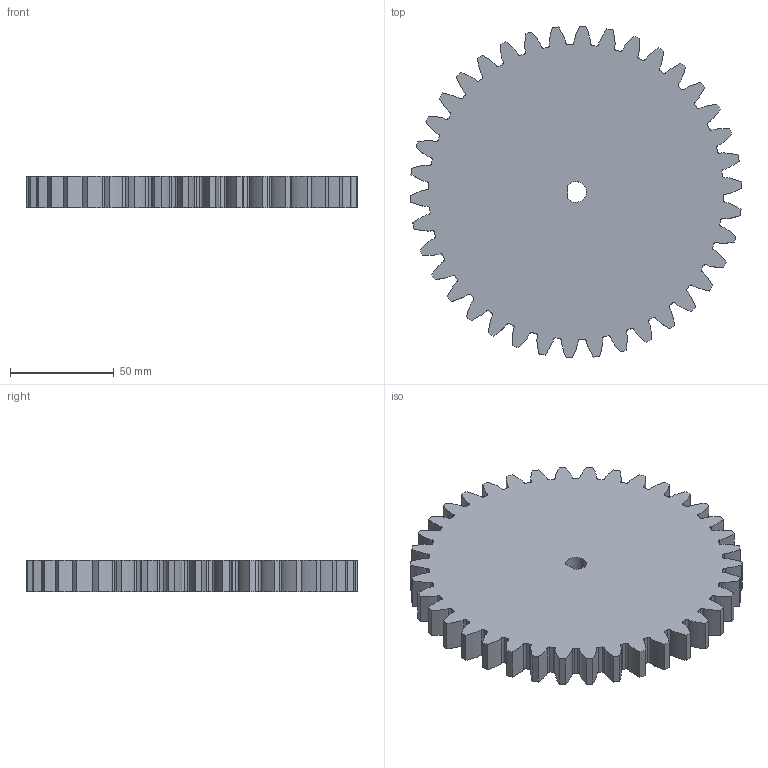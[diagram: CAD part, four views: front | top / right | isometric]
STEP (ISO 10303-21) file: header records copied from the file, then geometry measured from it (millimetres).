
FILE_DESCRIPTION (( 'STEP AP203' ), '1' );
FILE_NAME ('Pignon denture droite m=4 Z=38.STEP', '2025-09-18T12:06:04', ( '' ), ( '' ), 'SwSTEP 2.0', 'SolidWorks 2019', '' );
FILE_SCHEMA (( 'CONFIG_CONTROL_DESIGN' ));
Length unit declared in the file: millimetre
Products named in the file (1): Pignon denture droite m=4 Z=38
Bounding box: 159.96 x 159.96 x 15 mm (x, y, z)
Volume: 268784.5 mm3; surface area: 50570.1 mm2
Topology: 1 solids, 1 shells, 250 faces, 744 edges, 496 vertices
Faces by surface type: cylinder 171, bspline 76, plane 3
Entity records: 9391 total; most frequent: CARTESIAN_POINT 2783, ORIENTED_EDGE 1488, DIRECTION 1284, EDGE_CURVE 744, AXIS2_PLACEMENT_3D 517, VERTEX_POINT 496, CIRCLE 342, EDGE_LOOP 252
